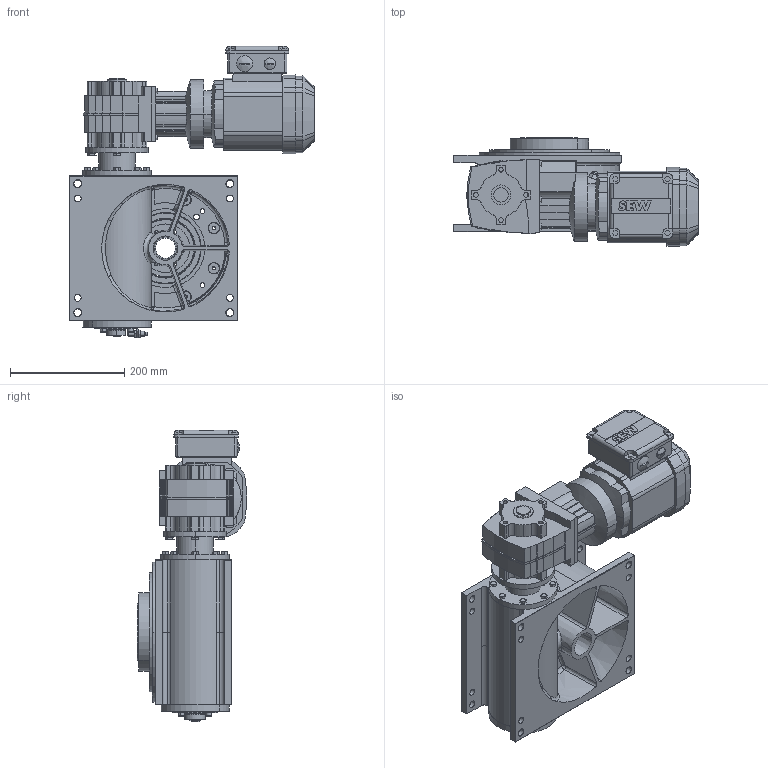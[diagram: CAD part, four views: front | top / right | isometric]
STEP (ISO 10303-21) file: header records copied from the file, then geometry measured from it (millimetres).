
FILE_DESCRIPTION (( 'STEP AP214' ), '1' );
FILE_NAME ('M210_SEW_WA37DRS71S6_D1.STEP', '2020-06-17T04:15:47', ( '' ), ( '' ), 'SwSTEP 2.0', 'SolidWorks 2020', '' );
FILE_SCHEMA (( 'AUTOMOTIVE_DESIGN' ));
Length unit declared in the file: millimetre
Products named in the file (1): M210_SEW_WA37DRS71S6_D1
Bounding box: 429 x 191.14 x 511 mm (x, y, z)
Surface area: 820308.8 mm2 (no closed solid volume)
Topology: 0 solids, 88 shells, 1407 faces, 4275 edges, 2866 vertices
Faces by surface type: plane 639, cylinder 409, cone 196, bspline 110, torus 53
Entity records: 71347 total; most frequent: CARTESIAN_POINT 18253, DIRECTION 7857, ORIENTED_EDGE 7220, EDGE_CURVE 4247, VERTEX_POINT 2866, AXIS2_PLACEMENT_3D 2848, LINE 2161, VECTOR 2161
